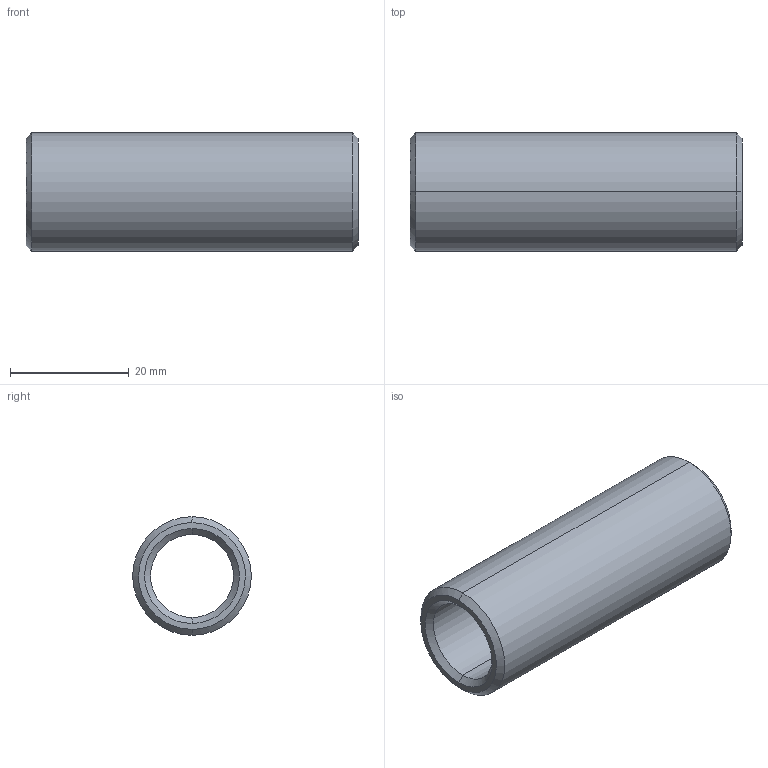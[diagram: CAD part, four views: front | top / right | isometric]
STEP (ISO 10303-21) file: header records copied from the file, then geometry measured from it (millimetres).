
FILE_DESCRIPTION(('CATIA V5 STEP Exchange'),'2;1');
FILE_NAME('C:\Users\Utente\Desktop\IO LAVORO\3D X SITO CF\X SITO\PLASTICA\352\352-14X56.stp','2021-04-10T09:13:06+00:00',('none'),('none'),'CATIA Version 5 Release 20 GA (IN-10)','CATIA V5 STEP AP203','none');
FILE_SCHEMA(('CONFIG_CONTROL_DESIGN'));
Length unit declared in the file: millimetre
Products named in the file (1): 352-14X56
Bounding box: 56 x 20 x 20 mm (x, y, z)
Volume: 8878.9 mm3; surface area: 6182.9 mm2
Topology: 1 solids, 1 shells, 14 faces, 44 edges, 32 vertices
Faces by surface type: cone 6, cylinder 4, plane 2, torus 2
Entity records: 634 total; most frequent: CARTESIAN_POINT 203, ORIENTED_EDGE 88, DIRECTION 64, EDGE_CURVE 44, AXIS2_PLACEMENT_3D 41, VERTEX_POINT 32, CIRCLE 26, EDGE_LOOP 16
